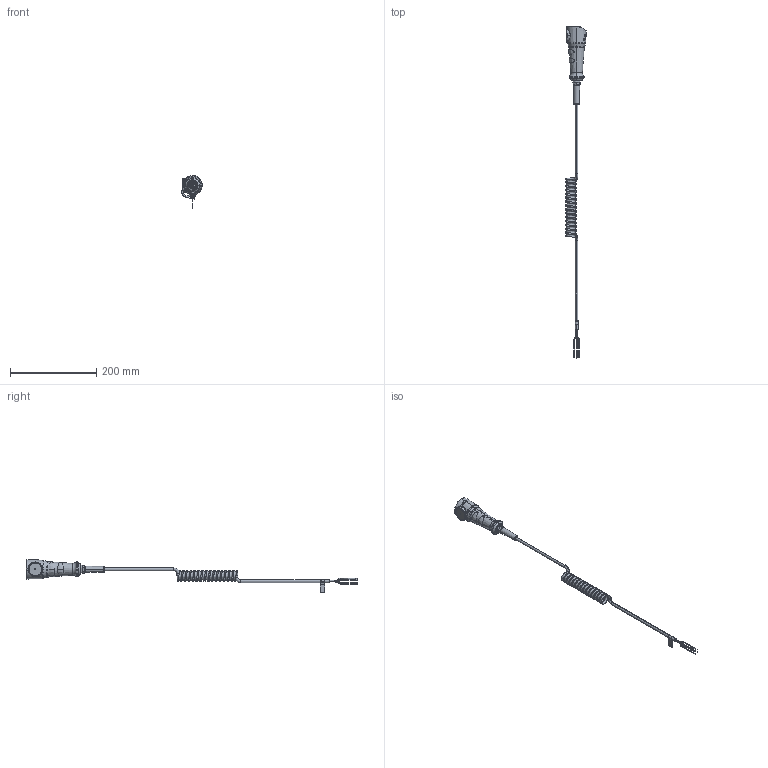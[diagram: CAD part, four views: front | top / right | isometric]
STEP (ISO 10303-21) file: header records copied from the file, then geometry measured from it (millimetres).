
FILE_DESCRIPTION((''),'2;1');
FILE_NAME('2016046','2014-06-12T',('smayer'),(''),'PRO/ENGINEER BY PARAMETRIC TECHNOLOGY CORPORATION, 2011040','PRO/ENGINEER BY PARAMETRIC TECHNOLOGY CORPORATION, 2011040','');
FILE_SCHEMA(('AUTOMOTIVE_DESIGN_CC2 { 1 2 10303 214 -1 1 5 2 }'));
Length unit declared in the file: millimetre
Products named in the file (1): 2016046
Bounding box: 47.36 x 770.66 x 76.27 mm (x, y, z)
Surface area: 60953.4 mm2 (no closed solid volume)
Topology: 0 solids, 1 shells, 1086 faces, 2891 edges, 1814 vertices
Faces by surface type: plane 428, cylinder 308, torus 172, bspline 118, cone 40, extrusion 13, sphere 4, revolution 3
Entity records: 66258 total; most frequent: CARTESIAN_POINT 25902, ORIENTED_EDGE 5755, DIRECTION 5251, PRESENTATION_STYLE_ASSIGNMENT 3536, STYLED_ITEM 2903, CURVE_STYLE 2902, EDGE_CURVE 2885, AXIS2_PLACEMENT_3D 1972
